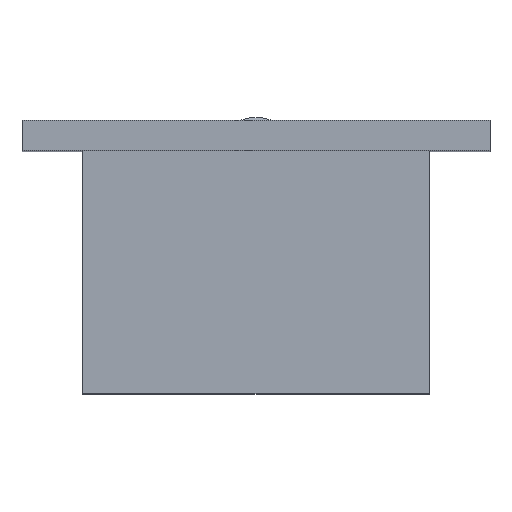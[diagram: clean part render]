
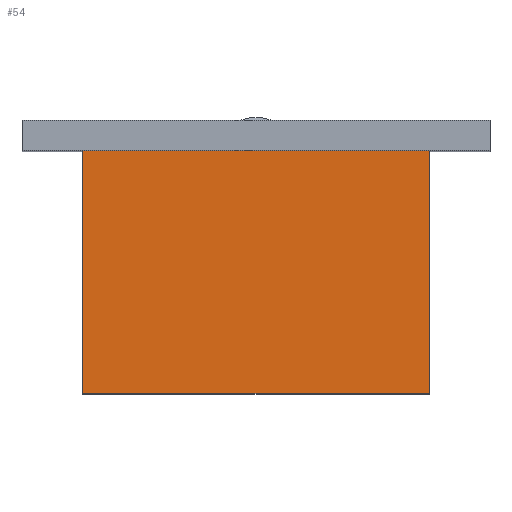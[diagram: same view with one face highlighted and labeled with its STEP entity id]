
A CAD part, top view. The second image highlights one B-rep face of the part: STEP entity #54.
In plain terms, the highlighted planar face has unit normal (0, 0, 1).
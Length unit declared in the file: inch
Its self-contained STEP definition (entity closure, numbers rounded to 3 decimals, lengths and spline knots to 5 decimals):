
#11 = VECTOR ( 'NONE', #539, 39.37008 ) ;
#26 = EDGE_CURVE ( 'NONE', #569, #311, #501, .T. ) ;
#41 = ORIENTED_EDGE ( 'NONE', *, *, #26, .T. ) ;
#46 = VERTEX_POINT ( 'NONE', #518 ) ;
#54 = ADVANCED_FACE ( 'NONE', ( #138 ), #90, .F. ) ;
#76 = LINE ( 'NONE', #583, #292 ) ;
#90 = PLANE ( 'NONE',  #577 ) ;
#96 = EDGE_CURVE ( 'NONE', #574, #311, #258, .T. ) ;
#105 = EDGE_CURVE ( 'NONE', #569, #46, #442, .T. ) ;
#112 = DIRECTION ( 'NONE',  ( 0., 1., 0. ) ) ;
#118 = CARTESIAN_POINT ( 'NONE',  ( 5., -0.875, 9.375 ) ) ;
#138 = FACE_OUTER_BOUND ( 'NONE', #558, .T. ) ;
#158 = CARTESIAN_POINT ( 'NONE',  ( 6.75, -0.875, 9.375 ) ) ;
#225 = ORIENTED_EDGE ( 'NONE', *, *, #467, .F. ) ;
#226 = DIRECTION ( 'NONE',  ( 0., 0., -1. ) ) ;
#247 = ORIENTED_EDGE ( 'NONE', *, *, #105, .F. ) ;
#258 = LINE ( 'NONE', #508, #354 ) ;
#292 = VECTOR ( 'NONE', #504, 39.37008 ) ;
#307 = CARTESIAN_POINT ( 'NONE',  ( 5., -7.875, 9.375 ) ) ;
#311 = VERTEX_POINT ( 'NONE', #459 ) ;
#314 = DIRECTION ( 'NONE',  ( -1., 0., 0. ) ) ;
#354 = VECTOR ( 'NONE', #112, 39.37008 ) ;
#367 = CARTESIAN_POINT ( 'NONE',  ( -5., -7.875, 9.375 ) ) ;
#442 = LINE ( 'NONE', #307, #11 ) ;
#459 = CARTESIAN_POINT ( 'NONE',  ( -5., -0.875, 9.375 ) ) ;
#467 = EDGE_CURVE ( 'NONE', #46, #574, #76, .T. ) ;
#495 = ORIENTED_EDGE ( 'NONE', *, *, #96, .F. ) ;
#501 = LINE ( 'NONE', #158, #604 ) ;
#504 = DIRECTION ( 'NONE',  ( -1., 0., 0. ) ) ;
#508 = CARTESIAN_POINT ( 'NONE',  ( -5., -7.875, 9.375 ) ) ;
#518 = CARTESIAN_POINT ( 'NONE',  ( 5., -7.875, 9.375 ) ) ;
#527 = DIRECTION ( 'NONE',  ( -1., 0., 0. ) ) ;
#539 = DIRECTION ( 'NONE',  ( 0., -1., 0. ) ) ;
#558 = EDGE_LOOP ( 'NONE', ( #41, #495, #225, #247 ) ) ;
#566 = CARTESIAN_POINT ( 'NONE',  ( 6.75, -0.875, 9.375 ) ) ;
#569 = VERTEX_POINT ( 'NONE', #118 ) ;
#574 = VERTEX_POINT ( 'NONE', #367 ) ;
#577 = AXIS2_PLACEMENT_3D ( 'NONE', #566, #226, #527 ) ;
#583 = CARTESIAN_POINT ( 'NONE',  ( 6.75, -7.875, 9.375 ) ) ;
#604 = VECTOR ( 'NONE', #314, 39.37008 ) ;
